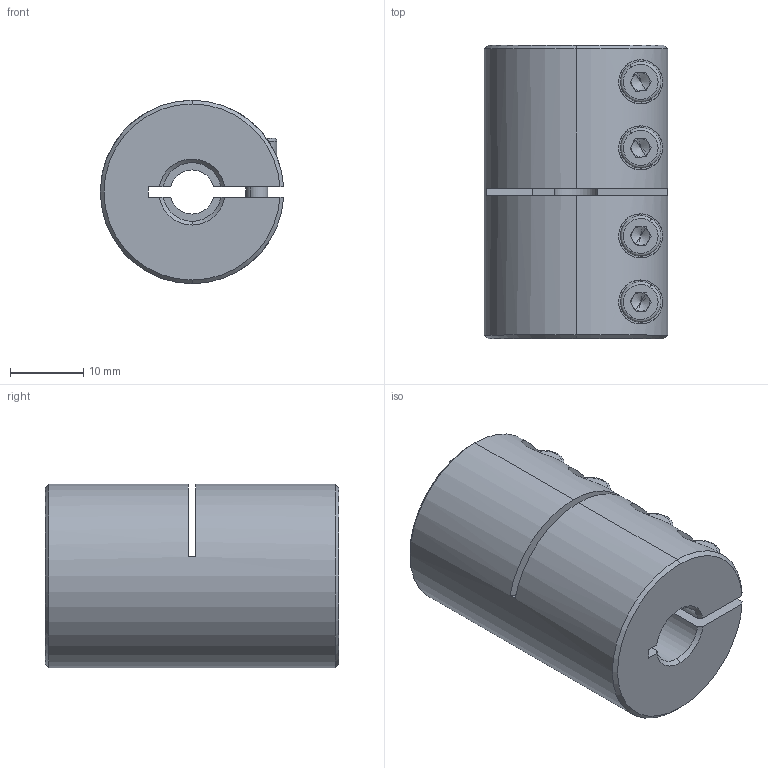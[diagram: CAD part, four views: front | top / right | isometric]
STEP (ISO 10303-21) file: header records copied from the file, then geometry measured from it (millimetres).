
FILE_DESCRIPTION (( 'STEP AP214' ), '1' );
FILE_NAME ('LL-B-D25L40-6-8½¨Ä£.STEP', '2022-07-21T05:08:30', ( '' ), ( '' ), 'SwSTEP 2.0', 'SolidWorks 2022', '' );
FILE_SCHEMA (( 'AUTOMOTIVE_DESIGN' ));
Length unit declared in the file: millimetre
Products named in the file (1): LL-B-D25L40-6-8膘耀
Bounding box: 24.98 x 40 x 25 mm (x, y, z)
Volume: 16864.4 mm3; surface area: 7114.2 mm2
Topology: 1 solids, 1 shells, 178 faces, 455 edges, 287 vertices
Faces by surface type: plane 85, cylinder 65, cone 20, torus 8
Entity records: 5838 total; most frequent: CARTESIAN_POINT 1437, DIRECTION 946, ORIENTED_EDGE 894, EDGE_CURVE 447, AXIS2_PLACEMENT_3D 364, VERTEX_POINT 287, VECTOR 218, LINE 218
